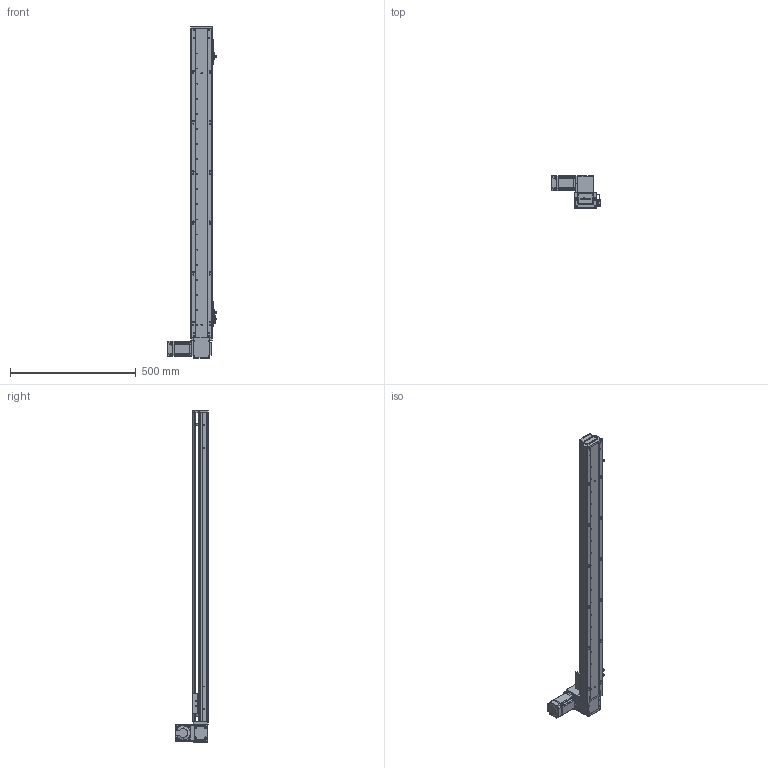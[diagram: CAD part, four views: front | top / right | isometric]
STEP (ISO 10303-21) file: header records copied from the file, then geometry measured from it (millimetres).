
FILE_DESCRIPTION (( 'STEP AP203' ), '1' );
FILE_NAME ('RY80-T-300-UL.SLDASM_1050.step', '2021-03-01T02:17:19', ( '盈信电脑' ), ( '东莞市道滘镇水果街19号' ), 'SwSTEP 2.0', 'SolidWorks 2012', '' );
FILE_SCHEMA (( 'CONFIG_CONTROL_DESIGN' ));
Products named in the file (19): RY80-T肮祭謫奻殏俋欶; RY80-T-M4蹟翐2; RY80-T-上下折同步轮盖板; RY80-T-300-UL.SLDASM_1050; 1; RY80-T翋肮祭謫裔啣; 滅袉蝶18-10; RY80-T粣創揤踡輸; RY80-T肮祭湍揤輸2; RY80-T萇儂假蚾啣; RY80-T肮祭湍揤輸1; RY80-T-翋肮祭謫釱; 672嫖萇羲壽假蚾釱; 覜茼ん672; RY80俋离覜茼え; RY80-T-300-UL倰第菁釱_1050; RY80-T肮祭謫臏賑輸; RY80-T-300-UL倰第奻裔啣_1050; RY80-T綴裔啣
Assembly tree (24 placements, depth 2):
  RY80-T-300-UL.SLDASM_1050
    RY80-T-300-UL倰第菁釱_1050
    RY80-T肮祭謫臏賑輸
    RY80-T-300-UL倰第奻裔啣_1050
    RY80-T綴裔啣
    672嫖萇羲壽假蚾釱  x2
    覜茼ん672  x3
    RY80俋离覜茼え
    RY80-T-翋肮祭謫釱
    RY80-T肮祭湍揤輸1
    RY80-T肮祭湍揤輸2
    RY80-T萇儂假蚾啣
    RY80-T粣創揤踡輸  x2
    滅袉蝶18-10  x2
    RY80-T翋肮祭謫裔啣
    1
    RY80-T肮祭謫奻殏俋欶
    RY80-T-M4蹟翐2  x2
    RY80-T-上下折同步轮盖板
Bounding box: 198.7 x 130.5 x 1320 mm (x, y, z)
Volume: 2260745.7 mm3; surface area: 945090.4 mm2
Topology: 24 solids, 24 shells, 2475 faces, 6798 edges, 4413 vertices
Faces by surface type: plane 1338, cylinder 933, cone 148, bspline 56
Entity records: 76817 total; most frequent: CARTESIAN_POINT 18296, ORIENTED_EDGE 11980, DIRECTION 11330, EDGE_CURVE 5990, VERTEX_POINT 3934, AXIS2_PLACEMENT_3D 3800, VECTOR 3730, LINE 3730
